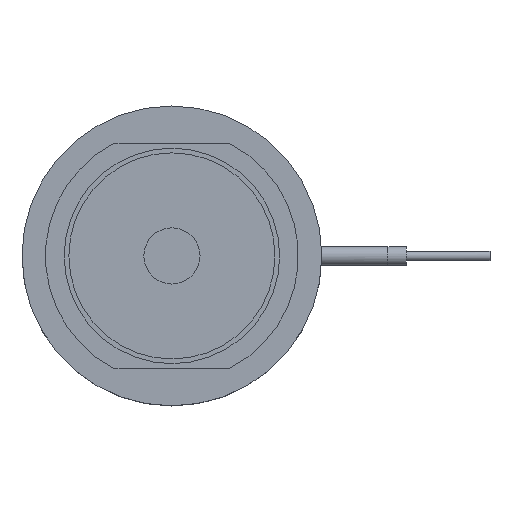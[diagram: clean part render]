
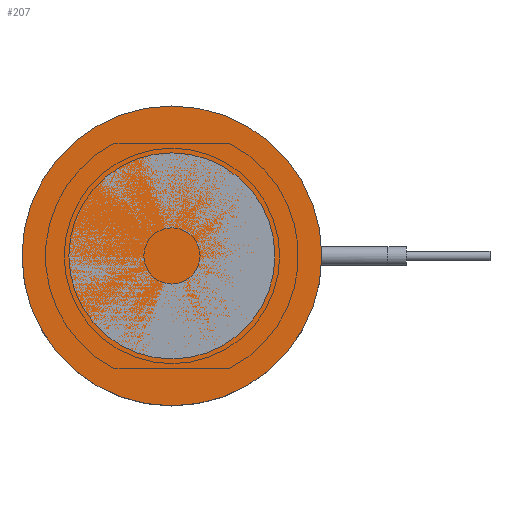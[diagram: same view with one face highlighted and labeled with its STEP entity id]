
A CAD part, top view. The second image highlights one B-rep face of the part: STEP entity #207.
In plain terms, the highlighted planar face has unit normal (0, 0, 1).
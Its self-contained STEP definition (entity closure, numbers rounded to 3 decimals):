
#142=PLANE('',#1189);
#207=ADVANCED_FACE('',(#285),#142,.F.);
#285=FACE_OUTER_BOUND('',#589,.T.);
#418=CIRCLE('',#1188,16.);
#589=EDGE_LOOP('',(#823));
#823=ORIENTED_EDGE('',*,*,#1040,.F.);
#923=VERTEX_POINT('',#2112);
#1040=EDGE_CURVE('',#923,#923,#418,.T.);
#1188=AXIS2_PLACEMENT_3D('',#2111,#1489,#1490);
#1189=AXIS2_PLACEMENT_3D('',#2113,#1491,#1492);
#1489=DIRECTION('',(0.,0.,-1.));
#1490=DIRECTION('',(-1.,0.,0.));
#1491=DIRECTION('',(0.,0.,-1.));
#1492=DIRECTION('',(-1.,0.,0.));
#2111=CARTESIAN_POINT('',(0.,0.,0.));
#2112=CARTESIAN_POINT('',(-16.,0.,0.));
#2113=CARTESIAN_POINT('',(0.,0.,0.));
